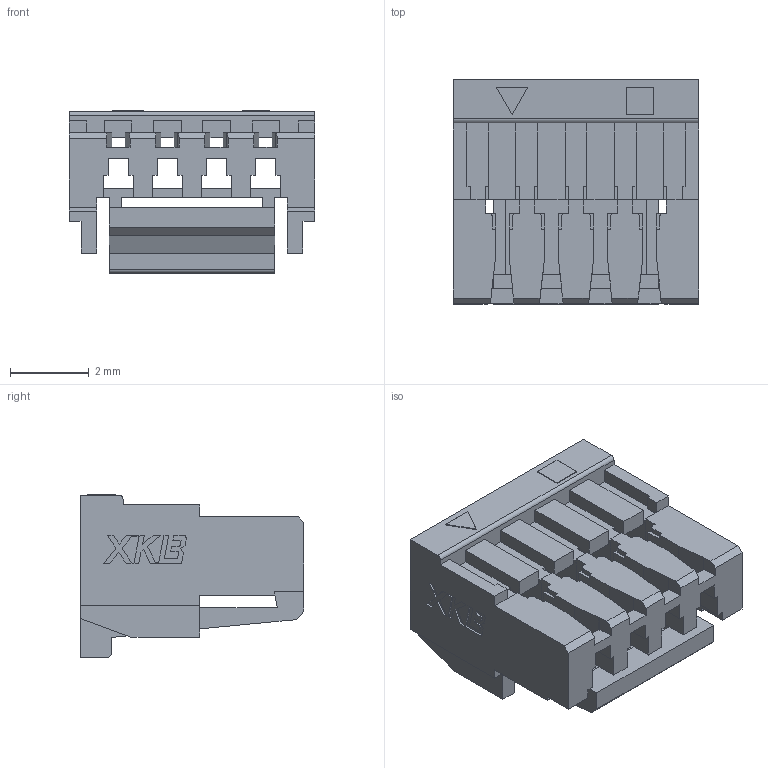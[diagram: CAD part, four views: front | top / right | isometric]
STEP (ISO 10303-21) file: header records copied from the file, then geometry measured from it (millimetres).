
FILE_DESCRIPTION (( 'STEP AP214' ), '1' );
FILE_NAME ('GHR-04V-S(EtherCAT).STEP', '2022-02-21T08:09:08', ( 'User' ), ( 'China' ), 'SwSTEP 2.0', 'SolidWorks 2016', '' );
FILE_SCHEMA (( 'AUTOMOTIVE_DESIGN' ));
Length unit declared in the file: millimetre
Products named in the file (1): GHR-04V-S(EtherCAT)
Bounding box: 6.25 x 5.7 x 4.14 mm (x, y, z)
Volume: 54.3 mm3; surface area: 302.1 mm2
Topology: 1 solids, 1 shells, 321 faces, 972 edges, 642 vertices
Faces by surface type: plane 305, cylinder 16
Entity records: 10802 total; most frequent: CARTESIAN_POINT 2110, ORIENTED_EDGE 1944, DIRECTION 1590, EDGE_CURVE 972, VECTOR 882, LINE 882, VERTEX_POINT 642, AXIS2_PLACEMENT_3D 354
